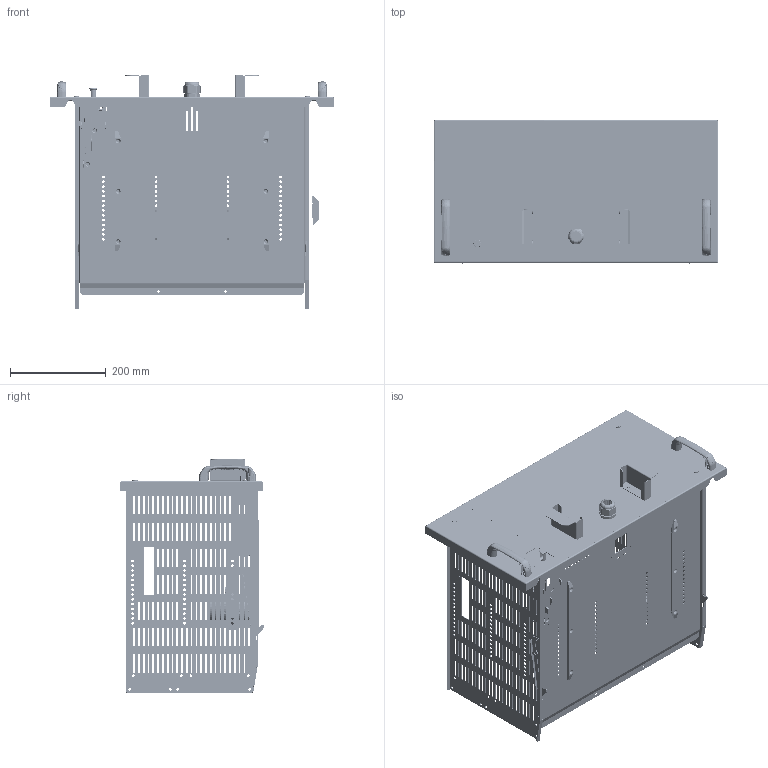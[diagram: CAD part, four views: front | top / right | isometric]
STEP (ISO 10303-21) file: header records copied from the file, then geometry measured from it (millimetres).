
FILE_DESCRIPTION(('CAx-IF Rec.Pracs.---Model Styling and Organization---1.2---2011-12-15','CAx-IF Rec.Pracs.---Geometric and Assembly Validation Properties---4.1---2014-06-16','CAx-IF Rec.Pracs.---PMI Polyline Presentation---2.0---2013-05-24'),'2;1');
FILE_NAME('R5M2W6M1BEPC.stp','2021-05-05T12:31:40+03:00',(''),(''),'STEP Interface 4.4 by CT CoreTechnologie','3D_Evolution4.4 by CT CoreTechnologie','');
FILE_SCHEMA(('AUTOMOTIVE_DESIGN { 1 0 10303 214 1 1 1 1 }'));
Length unit declared in the file: millimetre
Products named in the file (60): R5M2W6M1BEPC; CNTD CMV103D_-00; 20504_01; RB.1770.00.00.0; Insulator ISBK_ISBK9988; RB.1775.00.00.0 ÑÁ_-03; M5x8-DIN7500C_stright; RB.1501.00.00.0 ÑÁ_-03; RB.1501.00.01.0_-03; M6 art.MGR-MKO-0625_2¬¬; RB.1499.00.04.0_-01; RB.1775.02.00.0 ÑÁ_-03; RB.1775.02.01.0; M5-DIN 985 (ISO 10511)._stright; RB.1499.00.01.0_-03; RB.1499.00.04.0_-00; 6-DIN 6798A (CM220600)_DIN 6798-A6.4; RB.1775.03.00.0 ÑÁ_-03; RB.1775.03.01.0_-03; PF 7x14 RAMmcc 2.0_61; AC00C061_AC00C061; Ì6õ12-A5100231_straight; PF 3.5x7 RAMmcc 2.0_00; 4.444.001; PR.DT477.100.02; PR.DT477.100.01; 6-GOST 11371-78 (DIN 125) PA 6.6_6-GOST 11371-78 (DIN 125) PA 6.6; Ì5-GOST 5915-70 (DIN 934)_straight; M6x12 (A1100001)_stright; M5x16 GOST 17475-80 (DIN 965)_straight; RB.1356.00.00.0; Cable clamp PG 21; RB.1775.00.01.0_-03; RB.1775.00.02.0_-00; RB.1775.01.00.0 ÑÁ; M5x12-DIN 7500M ISR_stright; RB.1505.00.02.0; RB.1505.00.05.0_-00; Ì4-GOST R 50273-92 (DIN 985)_stright DIN EN ISO 10511 - M4 - N; RB.1505.00.01.0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
Assembly tree (102 placements, depth 5):
  R5M2W6M1BEPC
    CNTD CMV103D_-00
      20504_01
    RB.1770.00.00.0
    Insulator ISBK_ISBK9988  x2
    RB.1775.00.00.0 ÑÁ_-03
      M5x8-DIN7500C_stright  x14
      RB.1501.00.00.0 ÑÁ_-03
        RB.1501.00.01.0_-03
        M6 art.MGR-MKO-0625_2¬¬  x2
        RB.1499.00.04.0_-01
      RB.1775.02.00.0 ÑÁ_-03
        RB.1775.02.01.0
        M5-DIN 985 (ISO 10511)._stright  x2
        RB.1499.00.01.0_-03
        M6 art.MGR-MKO-0625_2¬¬  x2
        RB.1499.00.04.0_-00
      6-DIN 6798A (CM220600)_DIN 6798-A6.4  x4
      RB.1775.03.00.0 ÑÁ_-03
        RB.1775.03.01.0_-03
        PF 7x14 RAMmcc 2.0_61
        AC00C061_AC00C061
        Ì6õ12-A5100231_straight
        PF 3.5x7 RAMmcc 2.0_00
      4.444.001  x2
        PR.DT477.100.02
        PR.DT477.100.01
      6-GOST 11371-78 (DIN 125) PA 6.6_6-GOST 11371-78 (DIN 125) PA 6.6  x4
      Ì5-GOST 5915-70 (DIN 934)_straight  x4
      M6x12 (A1100001)_stright  x4
      M5x16 GOST 17475-80 (DIN 965)_straight  x4
      RB.1356.00.00.0
      Cable clamp PG 21
      RB.1775.00.01.0_-03
      RB.1775.00.02.0_-00  x2
      RB.1775.01.00.0 ÑÁ
        M5x12-DIN 7500M ISR_stright  x7
        RB.1505.00.02.0  x2
        RB.1505.00.05.0_-00
        Ì4-GOST R 50273-92 (DIN 985)_stright DIN EN ISO 10511 - M4 - N
        RB.1505.00.01.0
        RB.1503.00.00.0 ÑÁ
          RB.1503.00.06.0_-00
          RB.1503.00.07.0_-00
          RB.1503.00.01.0_-00
          RB.1503.00.02.0_-00
          RB.1503.00.03.0_123
          RB.1503.00.04.0_123
          RB.1503.00.05.0_123
        RB.1500.00.00.1 ÑÁ_-00 (ëª«)
          RB.1500.00.07.0
          RB.1500.00.08.1
          M6-DIN 985 (ISO 10511) (CM250600)_stright
          RB.1500.00.10.0_In prestressed condition - 30 mm
          Ì4-GOST R 50273-92 (DIN 985)_stright DIN EN ISO 10511 - M4 - N
          M4x25 GOST 17473-80 (DIN 7985)_stright
          RB.1500.00.03.0
          RB.1500.00.04.1_-00
          RB.1500.00.05.1
          RB.1500.00.06.0
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Bounding box: 594 x 298.93 x 488.84 mm (x, y, z)
Surface area: 1934372.4 mm2 (no closed solid volume)
Topology: 0 solids, 127 shells, 6240 faces, 16412 edges, 10312 vertices
Faces by surface type: plane 3258, bspline 1654, cylinder 1328
Full cylindrical faces by diameter (mm): 3.2 x2
Entity records: 181071 total; most frequent: CARTESIAN_POINT 57603, ORIENTED_EDGE 25444, DIRECTION 23802, EDGE_CURVE 12744, VECTOR 8896, LINE 8896, VERTEX_POINT 8172, AXIS2_PLACEMENT_3D 7453
